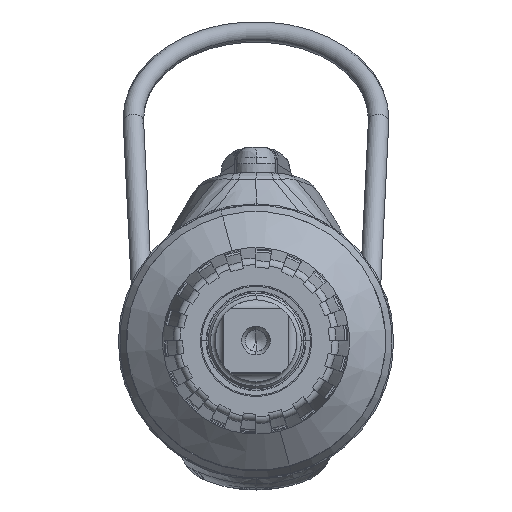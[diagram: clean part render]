
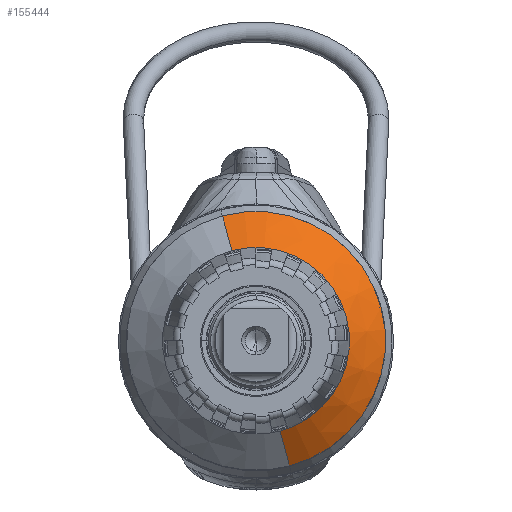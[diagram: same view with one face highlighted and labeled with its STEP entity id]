
A CAD part, top view. The second image highlights one B-rep face of the part: STEP entity #155444.
In plain terms, the highlighted conical face has half-angle 50 degrees and reference radius 16.35 mm.
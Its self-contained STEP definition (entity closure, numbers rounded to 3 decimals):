
#148618=CARTESIAN_POINT('',(0.,0.,58.8));
#148619=DIRECTION('',(0.,0.,1.));
#148620=DIRECTION('',(0.259,-0.966,0.));
#148621=AXIS2_PLACEMENT_3D('',#148618,#148619,#148620);
#148623=CARTESIAN_POINT('',(0.,0.,
54.353));
#148624=DIRECTION('',(0.,0.,-1.));
#148625=DIRECTION('',(-0.259,0.966,0.));
#148626=AXIS2_PLACEMENT_3D('',#148623,#148624,#148625);
#148633=DIRECTION('',(-0.198,0.74,0.643));
#148634=VECTOR('',#148633,6.919);
#148635=CARTESIAN_POINT('',(4.918,-18.353,
54.353));
#148636=LINE('',#148635,#148634);
#148642=DIRECTION('',(0.198,-0.74,0.643));
#148643=VECTOR('',#148642,6.919);
#148644=CARTESIAN_POINT('',(-4.918,18.353,
54.353));
#148645=LINE('',#148644,#148643);
#154127=CARTESIAN_POINT('',(-4.918,18.353,
54.353));
#154128=CARTESIAN_POINT('',(4.918,-18.353,
54.353));
#154129=VERTEX_POINT('',#154127);
#154130=VERTEX_POINT('',#154128);
#154771=CARTESIAN_POINT('',(3.546,-13.233,58.8));
#154772=CARTESIAN_POINT('',(-3.546,13.233,58.8));
#154773=VERTEX_POINT('',#154771);
#154774=VERTEX_POINT('',#154772);
#155430=CARTESIAN_POINT('',(0.,0.,
56.576));
#155431=DIRECTION('',(0.,0.,-1.));
#155432=DIRECTION('',(0.259,-0.966,0.));
#155433=AXIS2_PLACEMENT_3D('',#155430,#155431,#155432);
#155434=CONICAL_SURFACE('',#155433,16.35,50.);
#155435=ORIENTED_EDGE('',*,*,#155350,.T.);
#155437=ORIENTED_EDGE('',*,*,#155436,.F.);
#155439=ORIENTED_EDGE('',*,*,#155438,.T.);
#155441=ORIENTED_EDGE('',*,*,#155440,.T.);
#155442=EDGE_LOOP('',(#155435,#155437,#155439,#155441));
#155443=FACE_OUTER_BOUND('',#155442,.F.);
#155444=ADVANCED_FACE('',(#155443),#155434,.T.);
#148622=CIRCLE('',#148621,13.7);
#148627=CIRCLE('',#148626,19.);
#155350=EDGE_CURVE('',#154773,#154774,#148622,.T.);
#155436=EDGE_CURVE('',#154129,#154774,#148645,.T.);
#155438=EDGE_CURVE('',#154129,#154130,#148627,.T.);
#155440=EDGE_CURVE('',#154130,#154773,#148636,.T.);
